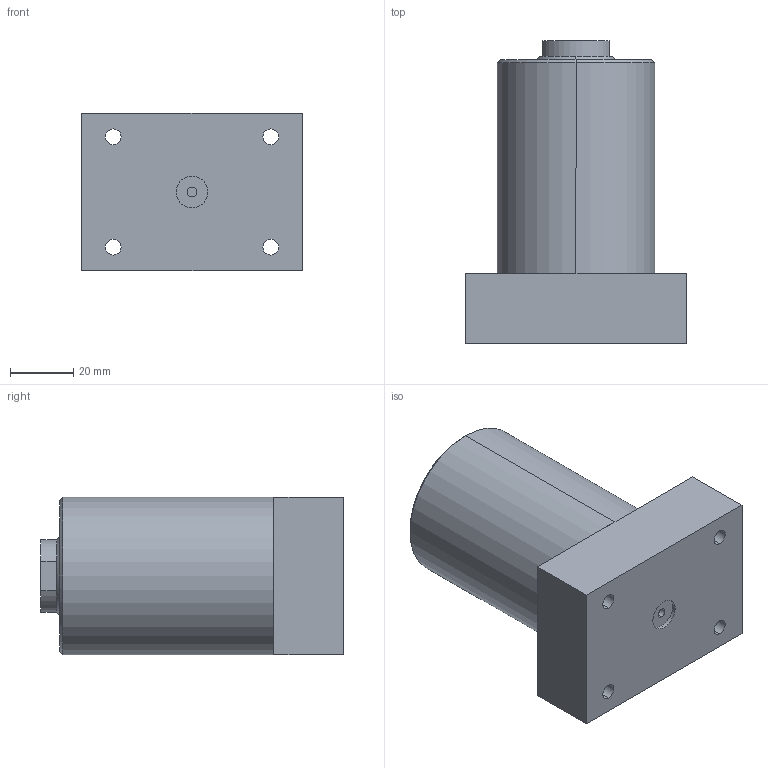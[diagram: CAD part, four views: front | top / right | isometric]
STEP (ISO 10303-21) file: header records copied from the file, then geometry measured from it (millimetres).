
FILE_DESCRIPTION (( 'STEP AP214' ), '1' );
FILE_NAME ('SP-25B.STEP', '2021-10-19T00:37:45', ( '' ), ( '' ), 'SwSTEP 2.0', 'SolidWorks 2016', '' );
FILE_SCHEMA (( 'AUTOMOTIVE_DESIGN' ));
Length unit declared in the file: millimetre
Products named in the file (1): SP-25B
Bounding box: 70 x 96 x 50 mm (x, y, z)
Volume: 207618.2 mm3; surface area: 25963.4 mm2
Topology: 1 solids, 1 shells, 64 faces, 146 edges, 89 vertices
Faces by surface type: cylinder 29, plane 25, cone 10
Entity records: 1979 total; most frequent: DIRECTION 337, CARTESIAN_POINT 296, ORIENTED_EDGE 284, EDGE_CURVE 142, AXIS2_PLACEMENT_3D 130, VERTEX_POINT 89, EDGE_LOOP 81, VECTOR 77
